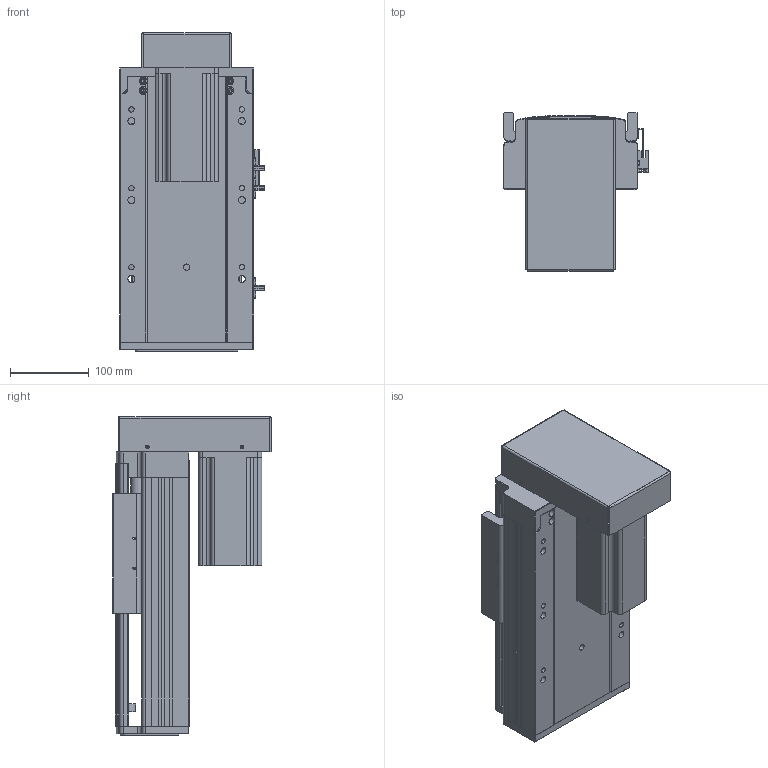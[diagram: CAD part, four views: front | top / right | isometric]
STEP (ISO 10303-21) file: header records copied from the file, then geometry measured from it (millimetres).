
FILE_DESCRIPTION (( 'STEP AP203' ), '1' );
FILE_NAME ('RY170-L2510-300-BK.SLDASM_100.step', '2021-03-12T08:57:07', ( '盈信电脑' ), ( '东莞市道滘镇水果街19号' ), 'SwSTEP 2.0', 'SolidWorks 2012', '' );
FILE_SCHEMA (( 'CONFIG_CONTROL_DESIGN' ));
Length unit declared in the file: millimetre
Products named in the file (14): RY170-L2510-300-BK.SLDASM_100; 怢湛750W萇儂ㄗ80遺ㄘ; RY170狟殏萇儂欶; RY170-狟殏750W萇儂傷; RY170-狟殏萇儂假蚾啣; 滅袉蝶18-10; RY170转折电机端支撑座(7004); 滅袉蝶18-20; RY170外置感应片(200共用）; RY170綴裔啣; RY170-300倰第裔啣-BK_100; 覜茼ん672; RY170-300倰第菁釱-BK_100; 改造-RY170铝滑块25丝杆螺母
Assembly tree (15 placements, depth 3):
  RY170-L2510-300-BK.SLDASM_100
    RY170-300倰第菁釱-BK_100
    改造-RY170铝滑块25丝杆螺母
    RY170-300倰第裔啣-BK_100
    RY170綴裔啣
    覜茼ん672  x3
    RY170外置感应片(200共用）
    滅袉蝶18-20
    滅袉蝶18-10
    RY170转折电机端支撑座(7004)
    RY170-狟殏750W萇儂傷
      RY170-狟殏萇儂假蚾啣
      RY170狟殏萇儂欶
      怢湛750W萇儂ㄗ80遺ㄘ
Bounding box: 183.7 x 200.8 x 404.5 mm (x, y, z)
Volume: 3445773.8 mm3; surface area: 906879.5 mm2
Topology: 14 solids, 14 shells, 1932 faces, 5457 edges, 3528 vertices
Faces by surface type: plane 1072, cylinder 715, cone 126, bspline 19
Entity records: 60762 total; most frequent: CARTESIAN_POINT 13751, ORIENTED_EDGE 9754, DIRECTION 9129, EDGE_CURVE 4877, VERTEX_POINT 3208, VECTOR 3201, LINE 3201, AXIS2_PLACEMENT_3D 2964
